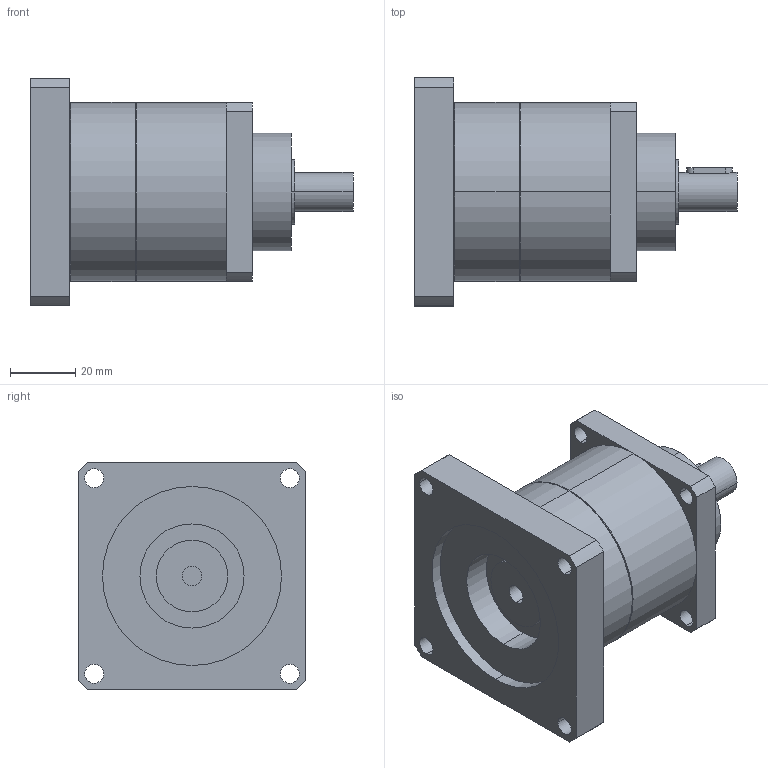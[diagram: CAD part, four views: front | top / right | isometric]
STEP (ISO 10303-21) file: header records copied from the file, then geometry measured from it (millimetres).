
FILE_DESCRIPTION(('CoCreate Modeling STEP Export'),'2;1');
FILE_NAME('GPT55_ig-3-4-5-7-10_12_B5A_6_P25.stp','2014-08-25T14:33:01',(''),(''),'CoCreate Modeling STEP processor for AP214 (Solid Model)','CoCreate Modeling 16.00C 25-Feb-2009 (C) Parametric Technology GmbH','');
FILE_SCHEMA(('AUTOMOTIVE_DESIGN { 1 0 10303 214 1 1 1 1 }'));
Length unit declared in the file: millimetre
Products named in the file (2): GPT55_ig-3-4-5-7-10_12_B5A_6_P25
Assembly tree (1 placements, depth 2):
  GPT55_ig-3-4-5-7-10_12_B5A_6_P25
    GPT55_ig-3-4-5-7-10_12_B5A_6_P25
Bounding box: 99 x 70 x 70 mm (x, y, z)
Volume: 194546.9 mm3; surface area: 29870.8 mm2
Topology: 1 solids, 1 shells, 77 faces, 204 edges, 139 vertices
Faces by surface type: cylinder 46, plane 27, cone 4
Entity records: 2515 total; most frequent: CARTESIAN_POINT 710, ORIENTED_EDGE 408, DIRECTION 318, EDGE_CURVE 204, VERTEX_POINT 139, AXIS2_PLACEMENT_3D 117, EDGE_LOOP 103, VECTOR 84
